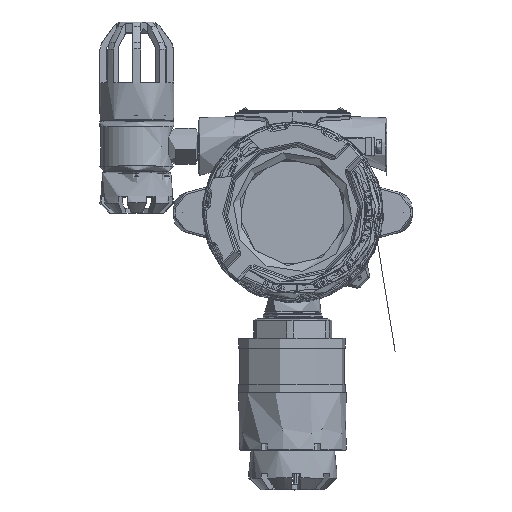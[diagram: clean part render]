
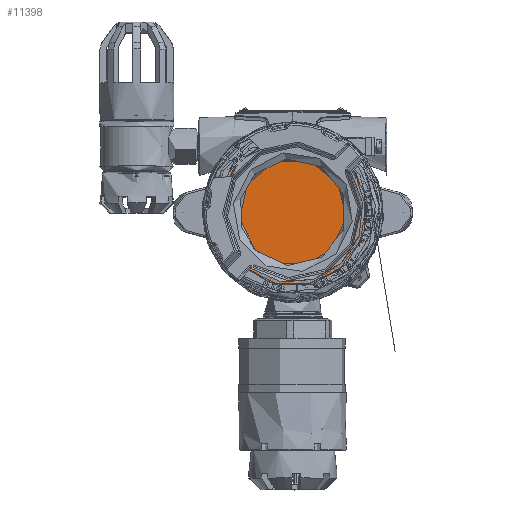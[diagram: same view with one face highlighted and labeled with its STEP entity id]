
A CAD part, top view. The second image highlights one B-rep face of the part: STEP entity #11398.
In plain terms, the highlighted planar face has unit normal (0, 0, 1) as drawn and (1, 0, 0) by its records, which use the part's own axes.
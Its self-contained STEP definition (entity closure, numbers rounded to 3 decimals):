
#11398=ADVANCED_FACE('',(#57129),#57131,.F.);
#57129=FACE_BOUND('',#57130,.T.);
#57130=EDGE_LOOP('',(#89949,#89950));
#57131=PLANE('',#57132);
#57132=AXIS2_PLACEMENT_3D('',#57133,#57134,#57135);
#57133=CARTESIAN_POINT('',(0.,0.,0.));
#57134=DIRECTION('',(-1.,0.,0.));
#57135=DIRECTION('',(0.,-1.,0.));
#89949=ORIENTED_EDGE('',*,*,#115361,.T.);
#89950=ORIENTED_EDGE('',*,*,#115362,.T.);
#115361=EDGE_CURVE('',#128529,#128530,#128531,.F.);
#115362=EDGE_CURVE('',#128530,#128529,#128532,.F.);
#128529=VERTEX_POINT('',#166085);
#128530=VERTEX_POINT('',#166086);
#128531=CIRCLE('',#166087,44.5);
#128532=CIRCLE('',#166091,44.5);
#166085=CARTESIAN_POINT('',(0.,-44.5,0.));
#166086=CARTESIAN_POINT('',(0.,31.466,-31.466));
#166087=AXIS2_PLACEMENT_3D('',#166088,#166089,#166090);
#166088=CARTESIAN_POINT('',(0.,0.,0.));
#166089=DIRECTION('',(-1.,0.,0.));
#166090=DIRECTION('',(0.,0.707,-0.707));
#166091=AXIS2_PLACEMENT_3D('',#166092,#166093,#166094);
#166092=CARTESIAN_POINT('',(0.,0.,0.));
#166093=DIRECTION('',(-1.,0.,0.));
#166094=DIRECTION('',(0.,-1.,0.));
